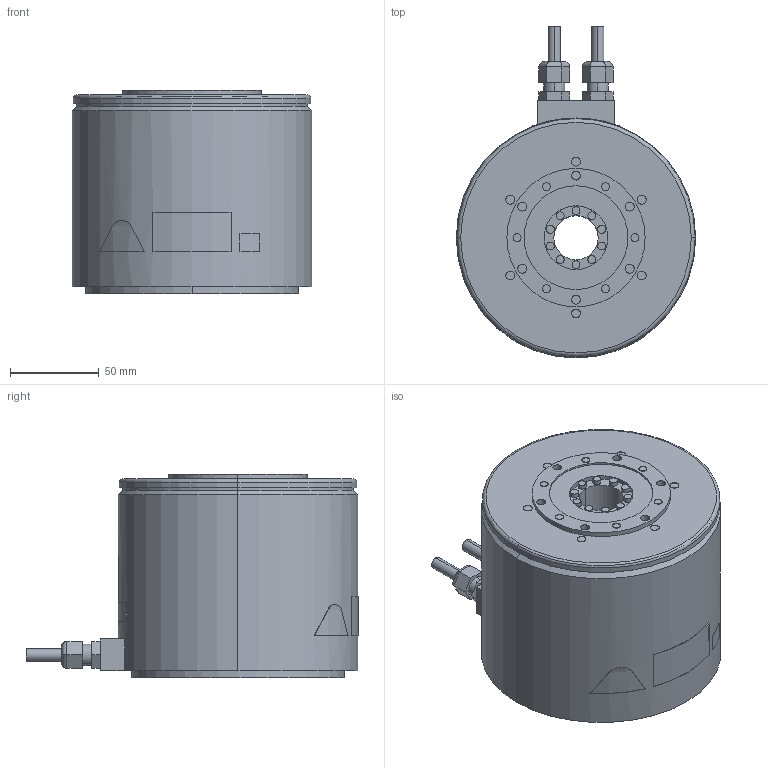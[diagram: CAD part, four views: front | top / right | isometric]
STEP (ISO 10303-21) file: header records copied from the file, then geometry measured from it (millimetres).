
FILE_DESCRIPTION (( 'STEP AP203' ), '1' );
FILE_NAME ('sgm7f_14b_a4_.STEP', '2016-07-24T06:27:03', ( '匠エンジニアリング山之内' ), ( 'TAKUMI-Engniaring' ), 'SwSTEP 2.0', 'SolidWorks 2006303', '' );
FILE_SCHEMA (( 'CONFIG_CONTROL_DESIGN' ));
Length unit declared in the file: millimetre
Products named in the file (1): sgm7f_14b_a4_
Bounding box: 135 x 187.2 x 115 mm (x, y, z)
Volume: 1552101.5 mm3; surface area: 108474 mm2
Topology: 1 solids, 1 shells, 250 faces, 529 edges, 346 vertices
Faces by surface type: cylinder 137, plane 107, cone 4, torus 2
Entity records: 6932 total; most frequent: DIRECTION 1275, CARTESIAN_POINT 1234, ORIENTED_EDGE 1058, EDGE_CURVE 529, AXIS2_PLACEMENT_3D 513, VERTEX_POINT 346, EDGE_LOOP 317, CIRCLE 262
